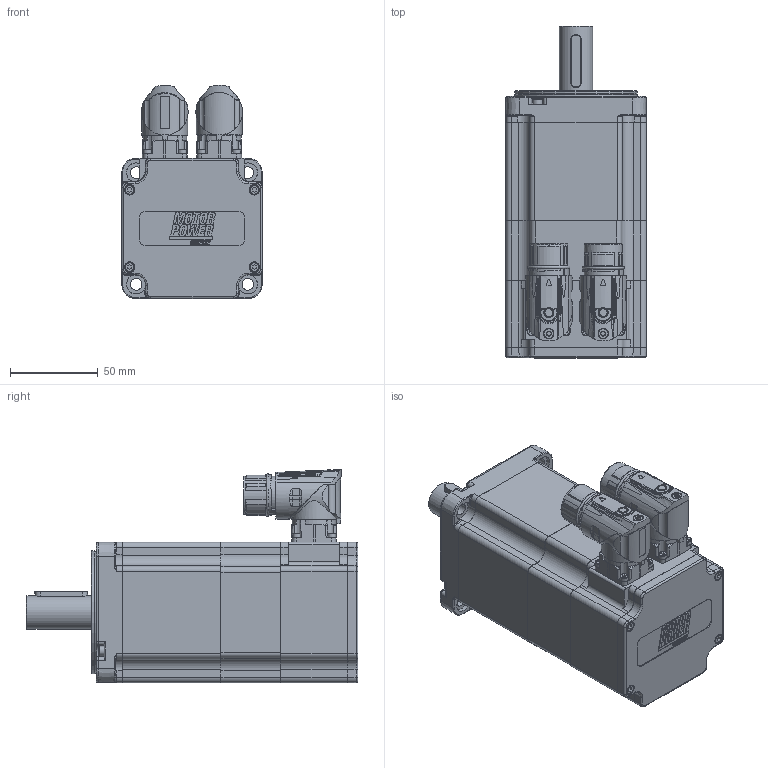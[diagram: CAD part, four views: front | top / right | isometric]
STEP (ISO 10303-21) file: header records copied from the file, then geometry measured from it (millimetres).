
FILE_DESCRIPTION(/* description */ ('Unknown'),/* implementation_level */ '2;1');
FILE_NAME(/* name */ 'TC4-80.3A.XX.X.3.M1.1.1.G2.33.80 Q0D209',/* time_stamp */ '2026-03-04T10:32:03+01:00',/* author */ ('Unknown'),/* organization */ ('Unknown'),/* preprocessor_version */ 'ST-DEVELOPER v19.4',/* originating_system */ 'Solid Edge',/* authorisation */ 'Unknown');
FILE_SCHEMA (('AUTOMOTIVE_DESIGN {1 0 10303 214 3 1 1}'));
Products named in the file (15): Q0D209 3A FRENO M1 VUOTO ; 003103040223; N27294 mod; 005119001500; 005911000192; 003107003286; 005113000500; 005911000185; 007117000456; 007117000454; 005911000202; 003251040719; 003003200450; 003151003165; 005711000130
Assembly tree (27 placements, depth 2):
  Q0D209 3A FRENO M1 VUOTO 
    003103040223
    N27294 mod
    005119001500
    005911000192  x4
    003107003286
    005113000500
    005911000185  x8
    007117000456
    007117000454
    005911000202  x4
    003251040719
    003003200450
    003151003165
    005711000130
Bounding box: 80 x 189 x 121.5 mm (x, y, z)
Volume: 384954.8 mm3; surface area: 182427.6 mm2
Topology: 29 solids, 29 shells, 2283 faces, 5713 edges, 3667 vertices
Faces by surface type: plane 986, cylinder 569, bspline 290, cone 271, torus 118, sphere 49
Full cylindrical faces by diameter (mm): 0.5 x1, 1 x21, 1.2 x17, 1.4 x4, 2 x4, 2.013 x12, 2.459 x32, 2.5 x9, 2.8 x4, 3 x20, 3.2 x2, 3.5 x14, 4.5 x2, 4.7 x8, 4.917 x1, 5.5 x10, 5.8 x1, 5.9 x2, 6 x6, 6.4 x1, 6.5 x4, 6.6 x4, 6.8 x1, 7 x4, 10 x1, 11 x4, 15 x2, 15.2 x1, 17 x1, 17.4 x3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
Entity records: 80469 total; most frequent: CARTESIAN_POINT 22107, ORIENTED_EDGE 9522, DIRECTION 8964, EDGE_CURVE 4761, AXIS2_PLACEMENT_3D 3444, VERTEX_POINT 3291, FACE_BOUND 2766, EDGE_LOOP 2737
